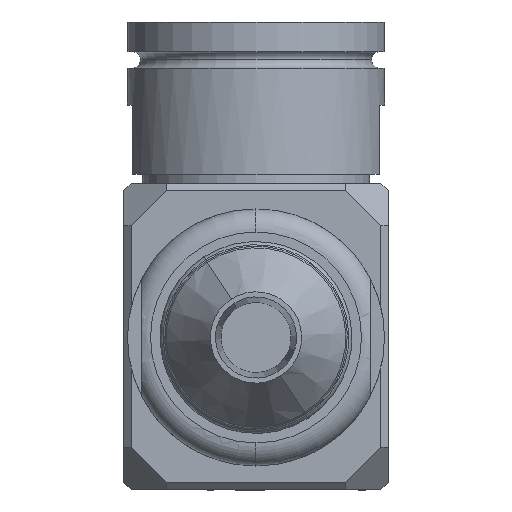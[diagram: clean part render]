
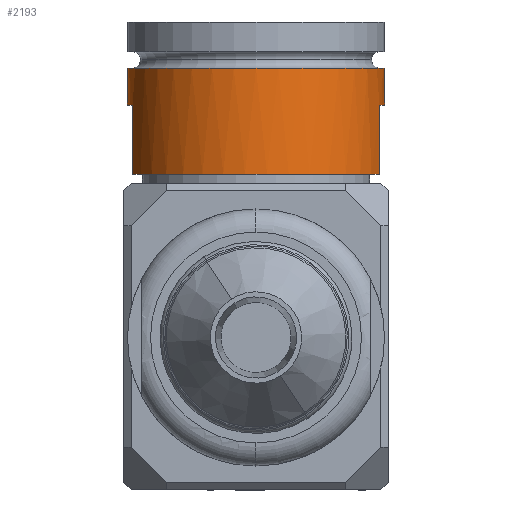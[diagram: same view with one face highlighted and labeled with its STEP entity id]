
A CAD part, front view. The second image highlights one B-rep face of the part: STEP entity #2193.
In plain terms, the highlighted cylindrical face has radius 17.691 mm (diameter 35.382 mm), a partial arc.
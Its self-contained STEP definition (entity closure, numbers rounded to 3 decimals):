
#325 = VERTEX_POINT ( 'NONE', #4490 ) ;
#596 = CIRCLE ( 'NONE', #5935, 17.691 ) ;
#619 = LINE ( 'NONE', #1518, #3165 ) ;
#638 = CARTESIAN_POINT ( 'NONE',  ( -16.993, -4.922, -2.972 ) ) ;
#864 = AXIS2_PLACEMENT_3D ( 'NONE', #6815, #5975, #3511 ) ;
#954 = EDGE_CURVE ( 'NONE', #7659, #997, #596, .T. ) ;
#988 = CARTESIAN_POINT ( 'NONE',  ( 0., 0., -2.972 ) ) ;
#997 = VERTEX_POINT ( 'NONE', #10724 ) ;
#1407 = DIRECTION ( 'NONE',  ( 0., 0., -1. ) ) ;
#1518 = CARTESIAN_POINT ( 'NONE',  ( -17.691, 0., 8.458 ) ) ;
#1657 = ORIENTED_EDGE ( 'NONE', *, *, #6762, .F. ) ;
#1794 = VERTEX_POINT ( 'NONE', #8825 ) ;
#1853 = CARTESIAN_POINT ( 'NONE',  ( 16.993, -4.922, -12.497 ) ) ;
#1868 = CARTESIAN_POINT ( 'NONE',  ( 0., 0., -2.972 ) ) ;
#2193 = ADVANCED_FACE ( 'NONE', ( #9846 ), #6500, .T. ) ;
#2211 = DIRECTION ( 'NONE',  ( 1., 0., 0. ) ) ;
#2262 = CARTESIAN_POINT ( 'NONE',  ( 16.993, -4.922, -2.972 ) ) ;
#2411 = VERTEX_POINT ( 'NONE', #7757 ) ;
#2527 = EDGE_CURVE ( 'NONE', #325, #10277, #4766, .T. ) ;
#2552 = ORIENTED_EDGE ( 'NONE', *, *, #2527, .F. ) ;
#2630 = DIRECTION ( 'NONE',  ( 0., 0., -1. ) ) ;
#2685 = ORIENTED_EDGE ( 'NONE', *, *, #5882, .T. ) ;
#2779 = ORIENTED_EDGE ( 'NONE', *, *, #4083, .F. ) ;
#2926 = VERTEX_POINT ( 'NONE', #1853 ) ;
#3162 = CARTESIAN_POINT ( 'NONE',  ( -16.993, -4.922, -2.972 ) ) ;
#3165 = VECTOR ( 'NONE', #1407, 1000. ) ;
#3211 = EDGE_CURVE ( 'NONE', #2411, #997, #619, .T. ) ;
#3251 = LINE ( 'NONE', #638, #4035 ) ;
#3254 = DIRECTION ( 'NONE',  ( 0., 0., -1. ) ) ;
#3511 = DIRECTION ( 'NONE',  ( 1., 0., 0. ) ) ;
#4035 = VECTOR ( 'NONE', #2630, 1000. ) ;
#4083 = EDGE_CURVE ( 'NONE', #1794, #325, #10582, .T. ) ;
#4105 = CIRCLE ( 'NONE', #10870, 17.691 ) ;
#4312 = AXIS2_PLACEMENT_3D ( 'NONE', #9732, #5495, #2211 ) ;
#4490 = CARTESIAN_POINT ( 'NONE',  ( 17.691, 0., -2.972 ) ) ;
#4526 = CARTESIAN_POINT ( 'NONE',  ( 0., 0., 2.108 ) ) ;
#4766 = CIRCLE ( 'NONE', #10982, 17.691 ) ;
#5118 = ORIENTED_EDGE ( 'NONE', *, *, #10036, .T. ) ;
#5495 = DIRECTION ( 'NONE',  ( 0., 0., -1. ) ) ;
#5524 = ORIENTED_EDGE ( 'NONE', *, *, #954, .F. ) ;
#5808 = ORIENTED_EDGE ( 'NONE', *, *, #8188, .F. ) ;
#5882 = EDGE_CURVE ( 'NONE', #7659, #5905, #3251, .T. ) ;
#5905 = VERTEX_POINT ( 'NONE', #8699 ) ;
#5935 = AXIS2_PLACEMENT_3D ( 'NONE', #1868, #10502, #8653 ) ;
#5975 = DIRECTION ( 'NONE',  ( 0., 0., -1. ) ) ;
#6500 = CYLINDRICAL_SURFACE ( 'NONE', #4312, 17.691 ) ;
#6762 = EDGE_CURVE ( 'NONE', #10277, #2926, #10888, .T. ) ;
#6792 = CARTESIAN_POINT ( 'NONE',  ( 16.993, -4.922, -2.972 ) ) ;
#6815 = CARTESIAN_POINT ( 'NONE',  ( 0., 0., -12.497 ) ) ;
#6986 = DIRECTION ( 'NONE',  ( 0., 0., -1. ) ) ;
#7019 = CARTESIAN_POINT ( 'NONE',  ( 17.691, 0., 8.458 ) ) ;
#7625 = CIRCLE ( 'NONE', #864, 17.691 ) ;
#7659 = VERTEX_POINT ( 'NONE', #3162 ) ;
#7757 = CARTESIAN_POINT ( 'NONE',  ( -17.691, 0., 2.108 ) ) ;
#7876 = ORIENTED_EDGE ( 'NONE', *, *, #3211, .T. ) ;
#8188 = EDGE_CURVE ( 'NONE', #2926, #5905, #7625, .T. ) ;
#8506 = DIRECTION ( 'NONE',  ( 1., 0., 0. ) ) ;
#8653 = DIRECTION ( 'NONE',  ( -1., 0., 0. ) ) ;
#8699 = CARTESIAN_POINT ( 'NONE',  ( -16.993, -4.922, -12.497 ) ) ;
#8825 = CARTESIAN_POINT ( 'NONE',  ( 17.691, 0., 2.108 ) ) ;
#9404 = DIRECTION ( 'NONE',  ( 0., 0., -1. ) ) ;
#9732 = CARTESIAN_POINT ( 'NONE',  ( 0., 0., 8.458 ) ) ;
#9846 = FACE_OUTER_BOUND ( 'NONE', #10013, .T. ) ;
#10013 = EDGE_LOOP ( 'NONE', ( #5118, #7876, #5524, #2685, #5808, #1657, #2552, #2779 ) ) ;
#10036 = EDGE_CURVE ( 'NONE', #1794, #2411, #4105, .T. ) ;
#10277 = VERTEX_POINT ( 'NONE', #6792 ) ;
#10384 = DIRECTION ( 'NONE',  ( 1., 0., 0. ) ) ;
#10418 = DIRECTION ( 'NONE',  ( 0., 0., -1. ) ) ;
#10502 = DIRECTION ( 'NONE',  ( 0., 0., -1. ) ) ;
#10566 = VECTOR ( 'NONE', #10418, 1000. ) ;
#10582 = LINE ( 'NONE', #7019, #10566 ) ;
#10724 = CARTESIAN_POINT ( 'NONE',  ( -17.691, 0., -2.972 ) ) ;
#10870 = AXIS2_PLACEMENT_3D ( 'NONE', #4526, #6986, #10384 ) ;
#10888 = LINE ( 'NONE', #2262, #11008 ) ;
#10982 = AXIS2_PLACEMENT_3D ( 'NONE', #988, #9404, #8506 ) ;
#11008 = VECTOR ( 'NONE', #3254, 1000. ) ;
